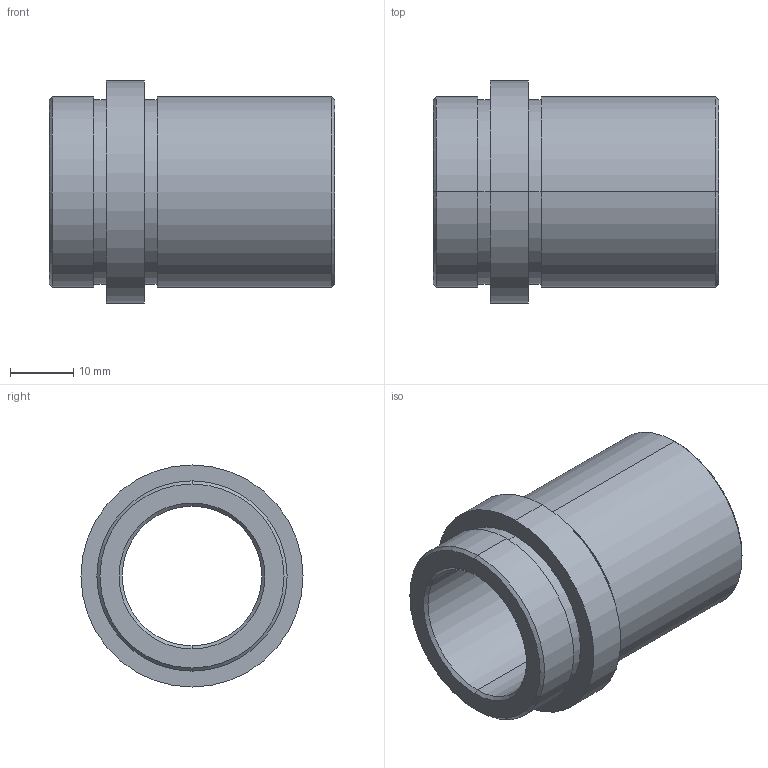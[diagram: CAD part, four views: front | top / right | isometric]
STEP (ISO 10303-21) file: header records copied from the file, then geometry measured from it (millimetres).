
FILE_DESCRIPTION( ( 'STEP AP203' ), '1' );
FILE_NAME( 'D:/Delta 3 D/D21/D21 - 22x36.step', '2002-12-31T22:44:50', ( ' ' ), ( ' ' ), 'XStep 1.0', ' ', ' ' );
FILE_SCHEMA( ( 'CONFIG_CONTROL_DESIGN' ) );
Length unit declared in the file: metre
Products named in the file (1): 1
Bounding box: 45 x 35 x 35 mm (x, y, z)
Volume: 16008 mm3; surface area: 8686.6 mm2
Topology: 1 solids, 1 shells, 26 faces, 52 edges, 32 vertices
Faces by surface type: revolution 20, bspline 6
Entity records: 773 total; most frequent: CARTESIAN_POINT 169, DIRECTION 106, ORIENTED_EDGE 104, EDGE_CURVE 52, AXIS2_PLACEMENT_3D 33, EDGE_LOOP 32, VERTEX_POINT 32, CIRCLE 32
